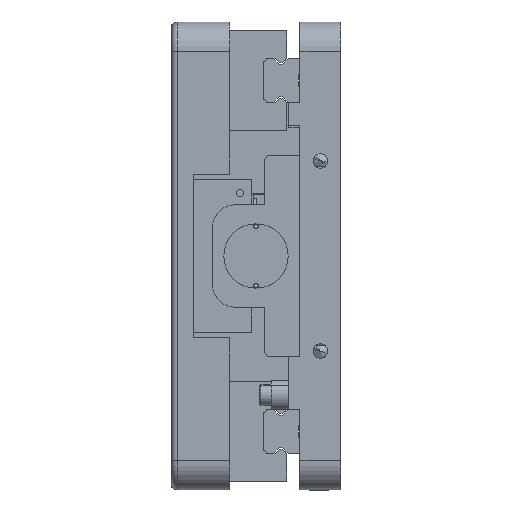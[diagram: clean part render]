
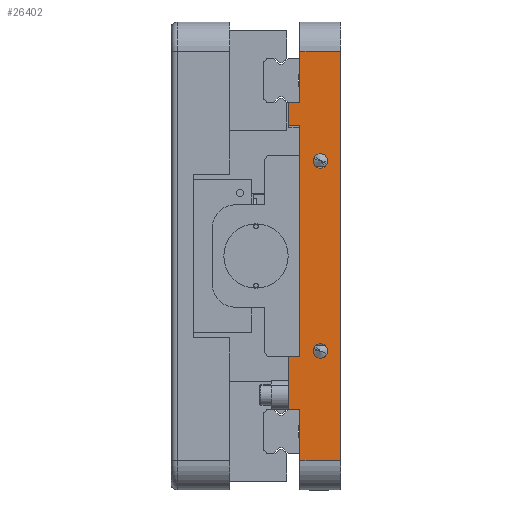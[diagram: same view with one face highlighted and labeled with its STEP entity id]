
A CAD part, left-side view. The second image highlights one B-rep face of the part: STEP entity #26402.
In plain terms, the highlighted planar face has unit normal (-1, 0, 0).
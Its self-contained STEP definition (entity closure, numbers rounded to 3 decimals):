
#142 = VERTEX_POINT ( 'NONE', #38313 ) ;
#258 = CARTESIAN_POINT ( 'NONE',  ( -136.5, -110.209, -34.5 ) ) ;
#515 = VERTEX_POINT ( 'NONE', #41015 ) ;
#768 = CARTESIAN_POINT ( 'NONE',  ( -136.5, 14., 70. ) ) ;
#907 = VERTEX_POINT ( 'NONE', #768 ) ;
#1766 = DIRECTION ( 'NONE',  ( 0., 0., -1. ) ) ;
#1887 = VERTEX_POINT ( 'NONE', #40686 ) ;
#1967 = VERTEX_POINT ( 'NONE', #28095 ) ;
#2286 = VERTEX_POINT ( 'NONE', #17026 ) ;
#2527 = DIRECTION ( 'NONE',  ( 0., 0., 1. ) ) ;
#3013 = EDGE_CURVE ( 'NONE', #36039, #2286, #26692, .T. ) ;
#3065 = VECTOR ( 'NONE', #31285, 1000. ) ;
#3469 = DIRECTION ( 'NONE',  ( 0., 0., 1. ) ) ;
#4435 = CARTESIAN_POINT ( 'NONE',  ( -136.5, 14., -52.5 ) ) ;
#4810 = VECTOR ( 'NONE', #36981, 1000. ) ;
#4855 = CARTESIAN_POINT ( 'NONE',  ( -136.5, 14., -70. ) ) ;
#5355 = EDGE_CURVE ( 'NONE', #515, #40404, #32386, .T. ) ;
#6230 = DIRECTION ( 'NONE',  ( 0., 0., 1. ) ) ;
#6505 = DIRECTION ( 'NONE',  ( -1., 0., 0. ) ) ;
#6949 = ORIENTED_EDGE ( 'NONE', *, *, #26177, .F. ) ;
#7208 = CARTESIAN_POINT ( 'NONE',  ( -136.5, 7., -35. ) ) ;
#7262 = CARTESIAN_POINT ( 'NONE',  ( -136.5, -274.382, 52.5 ) ) ;
#7388 = ORIENTED_EDGE ( 'NONE', *, *, #27265, .T. ) ;
#7397 = ORIENTED_EDGE ( 'NONE', *, *, #10621, .F. ) ;
#7414 = DIRECTION ( 'NONE',  ( 0., 1., 0. ) ) ;
#7846 = EDGE_CURVE ( 'NONE', #30212, #29877, #23943, .T. ) ;
#8372 = EDGE_LOOP ( 'NONE', ( #10504, #6949 ) ) ;
#8697 = CARTESIAN_POINT ( 'NONE',  ( -136.5, 17.8, -80. ) ) ;
#9442 = VERTEX_POINT ( 'NONE', #28719 ) ;
#9641 = LINE ( 'NONE', #39705, #13263 ) ;
#9862 = DIRECTION ( 'NONE',  ( 0., 1., 0. ) ) ;
#10100 = CARTESIAN_POINT ( 'NONE',  ( -136.5, 7., 32.5 ) ) ;
#10112 = DIRECTION ( 'NONE',  ( -1., 0., 0. ) ) ;
#10186 = CARTESIAN_POINT ( 'NONE',  ( -136.5, 17.8, -34.5 ) ) ;
#10394 = AXIS2_PLACEMENT_3D ( 'NONE', #10100, #6505, #3469 ) ;
#10504 = ORIENTED_EDGE ( 'NONE', *, *, #7846, .F. ) ;
#10621 = EDGE_CURVE ( 'NONE', #40404, #515, #12465, .T. ) ;
#11149 = VERTEX_POINT ( 'NONE', #10186 ) ;
#11511 = VECTOR ( 'NONE', #2527, 1000. ) ;
#11611 = LINE ( 'NONE', #28679, #15772 ) ;
#12107 = DIRECTION ( 'NONE',  ( -1., 0., 0. ) ) ;
#12173 = LINE ( 'NONE', #7262, #23495 ) ;
#12243 = CARTESIAN_POINT ( 'NONE',  ( -136.5, 7., 32.5 ) ) ;
#12255 = CARTESIAN_POINT ( 'NONE',  ( -136.5, 7., -30. ) ) ;
#12465 = CIRCLE ( 'NONE', #10394, 2.5 ) ;
#13263 = VECTOR ( 'NONE', #9862, 1000. ) ;
#13556 = LINE ( 'NONE', #19900, #23293 ) ;
#13855 = CARTESIAN_POINT ( 'NONE',  ( -136.5, 17.8, 44.5 ) ) ;
#13955 = CARTESIAN_POINT ( 'NONE',  ( -136.5, 14., 80. ) ) ;
#14600 = DIRECTION ( 'NONE',  ( 1., 0., 0. ) ) ;
#14903 = ORIENTED_EDGE ( 'NONE', *, *, #21724, .T. ) ;
#15647 = ORIENTED_EDGE ( 'NONE', *, *, #37691, .T. ) ;
#15772 = VECTOR ( 'NONE', #24809, 1000. ) ;
#15788 = DIRECTION ( 'NONE',  ( 0., 0., 1. ) ) ;
#16007 = EDGE_CURVE ( 'NONE', #907, #42352, #16735, .T. ) ;
#16166 = EDGE_CURVE ( 'NONE', #9442, #907, #38846, .T. ) ;
#16735 = LINE ( 'NONE', #13955, #4810 ) ;
#17026 = CARTESIAN_POINT ( 'NONE',  ( -136.5, 14., -34.5 ) ) ;
#17202 = LINE ( 'NONE', #38581, #11511 ) ;
#17778 = FACE_BOUND ( 'NONE', #8372, .T. ) ;
#18884 = DIRECTION ( 'NONE',  ( 0., 0., 1. ) ) ;
#19128 = VERTEX_POINT ( 'NONE', #4855 ) ;
#19521 = CARTESIAN_POINT ( 'NONE',  ( -136.5, 7., -32.5 ) ) ;
#19900 = CARTESIAN_POINT ( 'NONE',  ( -136.5, 0., -80. ) ) ;
#20050 = VECTOR ( 'NONE', #1766, 1000. ) ;
#20827 = AXIS2_PLACEMENT_3D ( 'NONE', #36227, #36238, #39998 ) ;
#20868 = FACE_OUTER_BOUND ( 'NONE', #41210, .T. ) ;
#21724 = EDGE_CURVE ( 'NONE', #1887, #9442, #13556, .T. ) ;
#21963 = AXIS2_PLACEMENT_3D ( 'NONE', #24633, #14600, #40959 ) ;
#22300 = LINE ( 'NONE', #39417, #35688 ) ;
#22386 = AXIS2_PLACEMENT_3D ( 'NONE', #12243, #12107, #18884 ) ;
#22518 = AXIS2_PLACEMENT_3D ( 'NONE', #19521, #10112, #6230 ) ;
#22859 = LINE ( 'NONE', #258, #23350 ) ;
#23012 = DIRECTION ( 'NONE',  ( 0., 0., 1. ) ) ;
#23262 = LINE ( 'NONE', #8697, #25337 ) ;
#23293 = VECTOR ( 'NONE', #23012, 1000. ) ;
#23350 = VECTOR ( 'NONE', #33376, 1000. ) ;
#23485 = PLANE ( 'NONE',  #21963 ) ;
#23495 = VECTOR ( 'NONE', #7414, 1000. ) ;
#23943 = CIRCLE ( 'NONE', #20827, 2.5 ) ;
#24442 = ORIENTED_EDGE ( 'NONE', *, *, #37385, .T. ) ;
#24513 = CARTESIAN_POINT ( 'NONE',  ( -136.5, -110.209, 44.5 ) ) ;
#24633 = CARTESIAN_POINT ( 'NONE',  ( -136.5, 17.8, -80. ) ) ;
#24809 = DIRECTION ( 'NONE',  ( 0., -1., 0. ) ) ;
#25151 = ORIENTED_EDGE ( 'NONE', *, *, #29494, .F. ) ;
#25337 = VECTOR ( 'NONE', #15788, 1000. ) ;
#26166 = CARTESIAN_POINT ( 'NONE',  ( -136.5, 14., 52.5 ) ) ;
#26177 = EDGE_CURVE ( 'NONE', #29877, #30212, #33710, .T. ) ;
#26402 = ADVANCED_FACE ( 'NONE', ( #17778, #39928, #20868 ), #23485, .F. ) ;
#26692 = LINE ( 'NONE', #31277, #20050 ) ;
#27265 = EDGE_CURVE ( 'NONE', #41039, #19128, #22300, .T. ) ;
#27631 = EDGE_CURVE ( 'NONE', #142, #11149, #23262, .T. ) ;
#28095 = CARTESIAN_POINT ( 'NONE',  ( -136.5, 17.8, 52.5 ) ) ;
#28148 = DIRECTION ( 'NONE',  ( 0., 1., 0. ) ) ;
#28679 = CARTESIAN_POINT ( 'NONE',  ( -136.5, 17.8, -70. ) ) ;
#28719 = CARTESIAN_POINT ( 'NONE',  ( -136.5, 0., 70. ) ) ;
#29494 = EDGE_CURVE ( 'NONE', #36039, #39331, #34466, .T. ) ;
#29555 = ORIENTED_EDGE ( 'NONE', *, *, #31936, .F. ) ;
#29877 = VERTEX_POINT ( 'NONE', #7208 ) ;
#30212 = VERTEX_POINT ( 'NONE', #12255 ) ;
#30536 = CARTESIAN_POINT ( 'NONE',  ( -136.5, 7., 35. ) ) ;
#30877 = CARTESIAN_POINT ( 'NONE',  ( -136.5, 14., 44.5 ) ) ;
#31277 = CARTESIAN_POINT ( 'NONE',  ( -136.5, 14., 44.5 ) ) ;
#31285 = DIRECTION ( 'NONE',  ( 0., 1., 0. ) ) ;
#31587 = EDGE_CURVE ( 'NONE', #2286, #11149, #22859, .T. ) ;
#31936 = EDGE_CURVE ( 'NONE', #39331, #1967, #17202, .T. ) ;
#31965 = EDGE_LOOP ( 'NONE', ( #7397, #42049 ) ) ;
#32386 = CIRCLE ( 'NONE', #22386, 2.5 ) ;
#32908 = ORIENTED_EDGE ( 'NONE', *, *, #16007, .T. ) ;
#33376 = DIRECTION ( 'NONE',  ( 0., 1., 0. ) ) ;
#33691 = ORIENTED_EDGE ( 'NONE', *, *, #31587, .T. ) ;
#33710 = CIRCLE ( 'NONE', #22518, 2.5 ) ;
#34466 = LINE ( 'NONE', #24513, #3065 ) ;
#34687 = ORIENTED_EDGE ( 'NONE', *, *, #27631, .F. ) ;
#35688 = VECTOR ( 'NONE', #38865, 1000. ) ;
#35870 = ORIENTED_EDGE ( 'NONE', *, *, #42752, .F. ) ;
#36039 = VERTEX_POINT ( 'NONE', #30877 ) ;
#36227 = CARTESIAN_POINT ( 'NONE',  ( -136.5, 7., -32.5 ) ) ;
#36238 = DIRECTION ( 'NONE',  ( -1., 0., 0. ) ) ;
#36288 = ORIENTED_EDGE ( 'NONE', *, *, #3013, .T. ) ;
#36981 = DIRECTION ( 'NONE',  ( 0., 0., -1. ) ) ;
#37385 = EDGE_CURVE ( 'NONE', #42352, #1967, #12173, .T. ) ;
#37462 = ORIENTED_EDGE ( 'NONE', *, *, #16166, .T. ) ;
#37691 = EDGE_CURVE ( 'NONE', #19128, #1887, #11611, .T. ) ;
#37990 = CARTESIAN_POINT ( 'NONE',  ( -136.5, 17.8, 70. ) ) ;
#38313 = CARTESIAN_POINT ( 'NONE',  ( -136.5, 17.8, -52.5 ) ) ;
#38581 = CARTESIAN_POINT ( 'NONE',  ( -136.5, 17.8, -80. ) ) ;
#38846 = LINE ( 'NONE', #37990, #40917 ) ;
#38865 = DIRECTION ( 'NONE',  ( 0., 0., -1. ) ) ;
#39331 = VERTEX_POINT ( 'NONE', #13855 ) ;
#39417 = CARTESIAN_POINT ( 'NONE',  ( -136.5, 14., -80. ) ) ;
#39705 = CARTESIAN_POINT ( 'NONE',  ( -136.5, -274.382, -52.5 ) ) ;
#39928 = FACE_BOUND ( 'NONE', #31965, .T. ) ;
#39998 = DIRECTION ( 'NONE',  ( 0., 0., 1. ) ) ;
#40404 = VERTEX_POINT ( 'NONE', #30536 ) ;
#40686 = CARTESIAN_POINT ( 'NONE',  ( -136.5, 0., -70. ) ) ;
#40917 = VECTOR ( 'NONE', #28148, 1000. ) ;
#40959 = DIRECTION ( 'NONE',  ( 0., 0., -1. ) ) ;
#41015 = CARTESIAN_POINT ( 'NONE',  ( -136.5, 7., 30. ) ) ;
#41039 = VERTEX_POINT ( 'NONE', #4435 ) ;
#41210 = EDGE_LOOP ( 'NONE', ( #14903, #37462, #32908, #24442, #29555, #25151, #36288, #33691, #34687, #35870, #7388, #15647 ) ) ;
#42049 = ORIENTED_EDGE ( 'NONE', *, *, #5355, .F. ) ;
#42352 = VERTEX_POINT ( 'NONE', #26166 ) ;
#42752 = EDGE_CURVE ( 'NONE', #41039, #142, #9641, .T. ) ;
